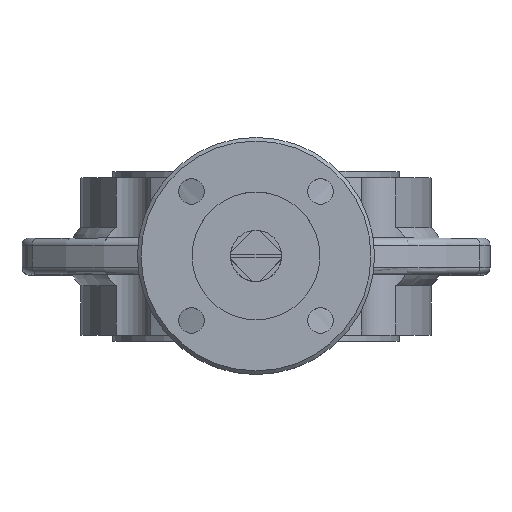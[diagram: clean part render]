
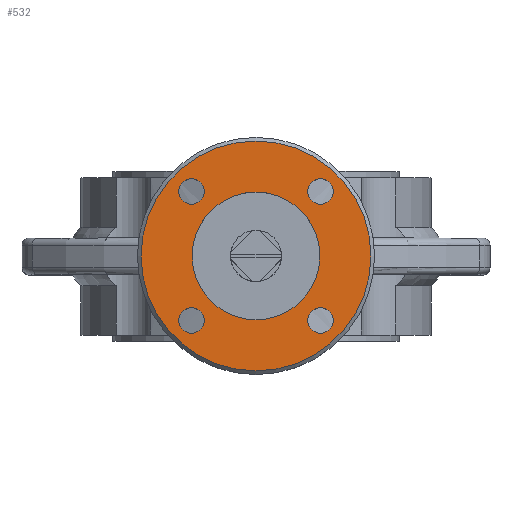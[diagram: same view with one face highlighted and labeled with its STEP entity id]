
A CAD part, top view. The second image highlights one B-rep face of the part: STEP entity #532.
In plain terms, the highlighted planar face has unit normal (0, 0, 1).
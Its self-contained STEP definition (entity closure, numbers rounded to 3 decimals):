
#532 = ADVANCED_FACE( '', ( #1142, #1143, #1144, #1145, #1146, #1147 ), #1148, .T. );
#1142 = FACE_BOUND( '', #1905, .T. );
#1143 = FACE_OUTER_BOUND( '', #1906, .T. );
#1144 = FACE_BOUND( '', #1907, .T. );
#1145 = FACE_BOUND( '', #1908, .T. );
#1146 = FACE_BOUND( '', #1909, .T. );
#1147 = FACE_BOUND( '', #1910, .T. );
#1148 = PLANE( '', #1911 );
#1905 = EDGE_LOOP( '', ( #3435 ) );
#1906 = EDGE_LOOP( '', ( #3436 ) );
#1907 = EDGE_LOOP( '', ( #3437 ) );
#1908 = EDGE_LOOP( '', ( #3438 ) );
#1909 = EDGE_LOOP( '', ( #3439 ) );
#1910 = EDGE_LOOP( '', ( #3440 ) );
#1911 = AXIS2_PLACEMENT_3D( '', #3441, #3442, #3443 );
#3435 = ORIENTED_EDGE( '', *, *, #4589, .T. );
#3436 = ORIENTED_EDGE( '', *, *, #4070, .T. );
#3437 = ORIENTED_EDGE( '', *, *, #4262, .T. );
#3438 = ORIENTED_EDGE( '', *, *, #4073, .T. );
#3439 = ORIENTED_EDGE( '', *, *, #4618, .T. );
#3440 = ORIENTED_EDGE( '', *, *, #4619, .T. );
#3441 = CARTESIAN_POINT( '', ( 0., 21.55, 109. ) );
#3442 = DIRECTION( '', ( 0., 0., 1. ) );
#3443 = DIRECTION( '', ( 1., 0., 0. ) );
#4070 = EDGE_CURVE( '', #4902, #4902, #4903, .T. );
#4073 = EDGE_CURVE( '', #4907, #4907, #4908, .T. );
#4262 = EDGE_CURVE( '', #5222, #5222, #5223, .T. );
#4589 = EDGE_CURVE( '', #5680, #5680, #5681, .T. );
#4618 = EDGE_CURVE( '', #5717, #5717, #5718, .T. );
#4619 = EDGE_CURVE( '', #5719, #5719, #5720, .T. );
#4902 = VERTEX_POINT( '', #6172 );
#4903 = CIRCLE( '', #6173, 31.5 );
#4907 = VERTEX_POINT( '', #6177 );
#4908 = CIRCLE( '', #6178, 3.5 );
#5222 = VERTEX_POINT( '', #6897 );
#5223 = CIRCLE( '', #6898, 3.5 );
#5680 = VERTEX_POINT( '', #7830 );
#5681 = CIRCLE( '', #7831, 17.5 );
#5717 = VERTEX_POINT( '', #7884 );
#5718 = CIRCLE( '', #7885, 3.5 );
#5719 = VERTEX_POINT( '', #7886 );
#5720 = CIRCLE( '', #7887, 3.5 );
#6172 = CARTESIAN_POINT( '', ( 0., -9.95, 109. ) );
#6173 = AXIS2_PLACEMENT_3D( '', #8155, #8156, #8157 );
#6177 = CARTESIAN_POINT( '', ( -21.178, 3.872, 109. ) );
#6178 = AXIS2_PLACEMENT_3D( '', #8161, #8162, #8163 );
#6897 = CARTESIAN_POINT( '', ( 14.178, 3.872, 109. ) );
#6898 = AXIS2_PLACEMENT_3D( '', #8401, #8402, #8403 );
#7830 = CARTESIAN_POINT( '', ( -17.5, 21.55, 109. ) );
#7831 = AXIS2_PLACEMENT_3D( '', #8829, #8830, #8831 );
#7884 = CARTESIAN_POINT( '', ( -21.178, 39.228, 109. ) );
#7885 = AXIS2_PLACEMENT_3D( '', #8866, #8867, #8868 );
#7886 = CARTESIAN_POINT( '', ( 14.178, 39.228, 109. ) );
#7887 = AXIS2_PLACEMENT_3D( '', #8869, #8870, #8871 );
#8155 = CARTESIAN_POINT( '', ( 0., 21.55, 109. ) );
#8156 = DIRECTION( '', ( 0., 0., 1. ) );
#8157 = DIRECTION( '', ( 0., -1., 0. ) );
#8161 = CARTESIAN_POINT( '', ( -17.678, 3.872, 109. ) );
#8162 = DIRECTION( '', ( 0., 0., -1. ) );
#8163 = DIRECTION( '', ( -1., 0., 0. ) );
#8401 = CARTESIAN_POINT( '', ( 17.678, 3.872, 109. ) );
#8402 = DIRECTION( '', ( 0., 0., -1. ) );
#8403 = DIRECTION( '', ( -1., 0., 0. ) );
#8829 = CARTESIAN_POINT( '', ( 0., 21.55, 109. ) );
#8830 = DIRECTION( '', ( 0., 0., -1. ) );
#8831 = DIRECTION( '', ( -1., 0., 0. ) );
#8866 = CARTESIAN_POINT( '', ( -17.678, 39.228, 109. ) );
#8867 = DIRECTION( '', ( 0., 0., -1. ) );
#8868 = DIRECTION( '', ( -1., 0., 0. ) );
#8869 = CARTESIAN_POINT( '', ( 17.678, 39.228, 109. ) );
#8870 = DIRECTION( '', ( 0., 0., -1. ) );
#8871 = DIRECTION( '', ( -1., 0., 0. ) );
